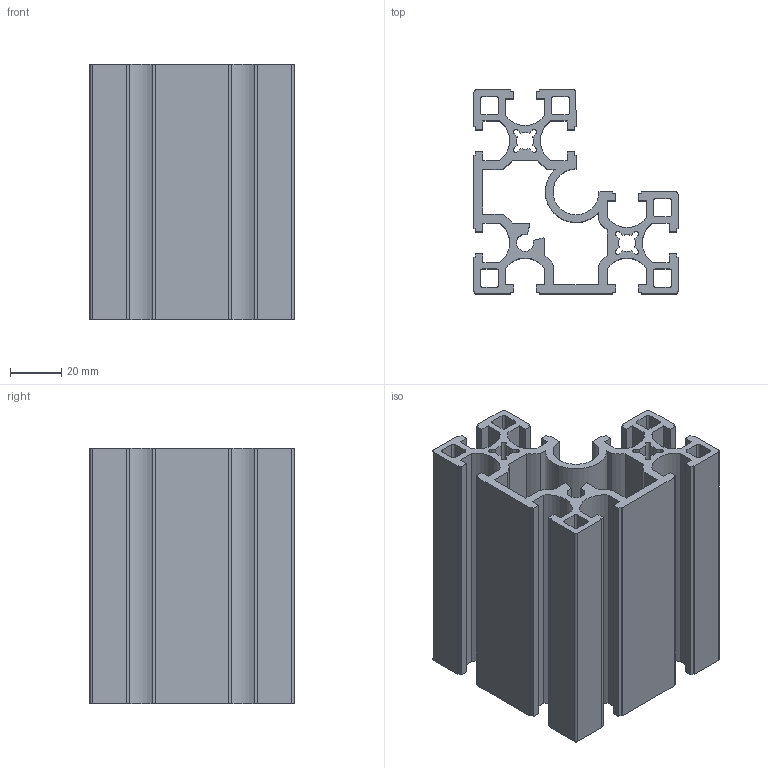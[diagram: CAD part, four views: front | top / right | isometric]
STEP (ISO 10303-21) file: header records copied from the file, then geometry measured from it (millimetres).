
FILE_DESCRIPTION(/* description */ (''),/* implementation_level */ '2;1');
FILE_NAME(/* name */ 'C:\Users\Owner\Documents\硯聰\Inv材料庫-3D新型錄\AM-(鋁擠)\8系列\AM8-8840_100L.stp',/* time_stamp */ '2019-03-08T11:42:51+08:00',/* author */ ('Owner'),/* organization */ (''),/* preprocessor_version */ 'ST-DEVELOPER v16.1',/* originating_system */ 'Autodesk Inventor 2016',/* authorisation */ '');
FILE_SCHEMA (('AUTOMOTIVE_DESIGN { 1 0 10303 214 3 1 1 }'));
Length unit declared in the file: millimetre
Products named in the file (1): AM8-8840_100L
Bounding box: 80 x 80 x 100 mm (x, y, z)
Volume: 164789.6 mm3; surface area: 108274.7 mm2
Topology: 1 solids, 1 shells, 206 faces, 612 edges, 408 vertices
Faces by surface type: plane 146, cylinder 60
Entity records: 6932 total; most frequent: CARTESIAN_POINT 1227, ORIENTED_EDGE 1224, DIRECTION 1146, EDGE_CURVE 612, LINE 492, VECTOR 492, VERTEX_POINT 408, AXIS2_PLACEMENT_3D 327
